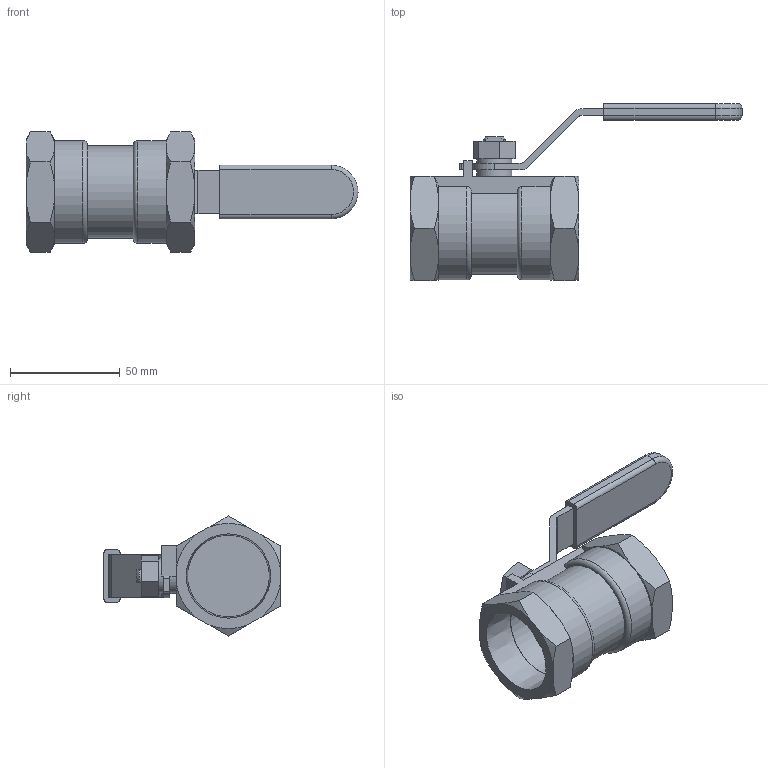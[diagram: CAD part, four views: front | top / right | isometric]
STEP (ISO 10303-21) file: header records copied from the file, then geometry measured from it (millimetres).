
FILE_DESCRIPTION(/* description */ ('Eriks item no: 12427446'),/* implementation_level */ '2;1');
FILE_NAME(/* name */ '7744-DN32-RB-1000PSI-NPT.stp',/* time_stamp */ '2024-02-16T13:16:54+01:00',/* author */ ('roger.thijssen'),/* organization */ (''),/* preprocessor_version */ 'ST-DEVELOPER v19.2',/* originating_system */ 'Autodesk Inventor 2024',/* authorisation */ '');
FILE_SCHEMA (('AUTOMOTIVE_DESIGN { 1 0 10303 214 3 1 1 }'));
Length unit declared in the file: millimetre
Products named in the file (1): Ball valve, 7744-DN32-RB-1000PSI-NPT
Bounding box: 151.5 x 80.75 x 54.85 mm (x, y, z)
Volume: 95485 mm3; surface area: 30358.5 mm2
Topology: 1 solids, 1 shells, 334 faces, 879 edges, 582 vertices
Faces by surface type: plane 250, cylinder 48, cone 28, bspline 4, torus 4
Full cylindrical faces by diameter (mm): 16 x2, 37.313 x2
Entity records: 10622 total; most frequent: CARTESIAN_POINT 1996, ORIENTED_EDGE 1758, DIRECTION 1607, EDGE_CURVE 879, LINE 685, VECTOR 685, VERTEX_POINT 582, AXIS2_PLACEMENT_3D 461
